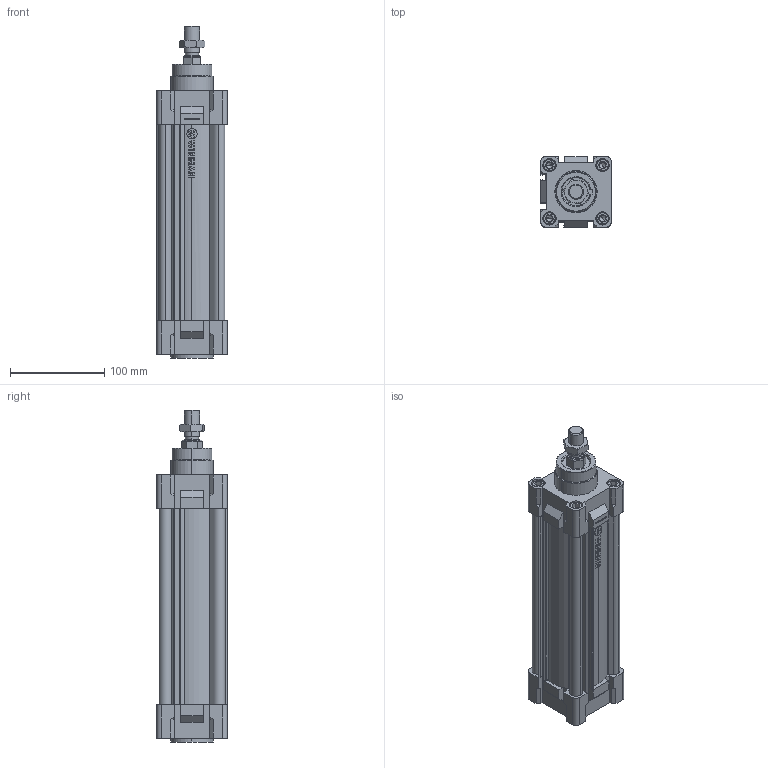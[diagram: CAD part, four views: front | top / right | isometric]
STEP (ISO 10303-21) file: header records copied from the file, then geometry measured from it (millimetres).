
FILE_DESCRIPTION (( 'STEP AP214' ), '1' );
FILE_NAME ('WAC-HR-063-0160 (3D).STEP', '2020-06-24T13:21:37', ( '' ), ( '' ), 'SwSTEP 2.0', 'SolidWorks 2016', '' );
FILE_SCHEMA (( 'AUTOMOTIVE_DESIGN' ));
Length unit declared in the file: millimetre
Products named in the file (4): Group3^WAC-HR-063-0160 (3D); Group1^WAC-HR-063-0160 (3D); WAC-HR-063-0160 (3D); Group2^WAC-HR-063-0160 (3D)
Assembly tree (3 placements, depth 2):
  WAC-HR-063-0160 (3D)
    Group1^WAC-HR-063-0160 (3D)
    Group2^WAC-HR-063-0160 (3D)
    Group3^WAC-HR-063-0160 (3D)
Bounding box: 75 x 75 x 353 mm (x, y, z)
Volume: 859524 mm3; surface area: 218690.9 mm2
Topology: 13 solids, 13 shells, 739 faces, 1918 edges, 1244 vertices
Faces by surface type: plane 420, cylinder 150, bspline 92, cone 77
Entity records: 29902 total; most frequent: CARTESIAN_POINT 10443, ORIENTED_EDGE 3804, DIRECTION 3183, EDGE_CURVE 1902, VERTEX_POINT 1244, VECTOR 1239, LINE 1239, AXIS2_PLACEMENT_3D 972
